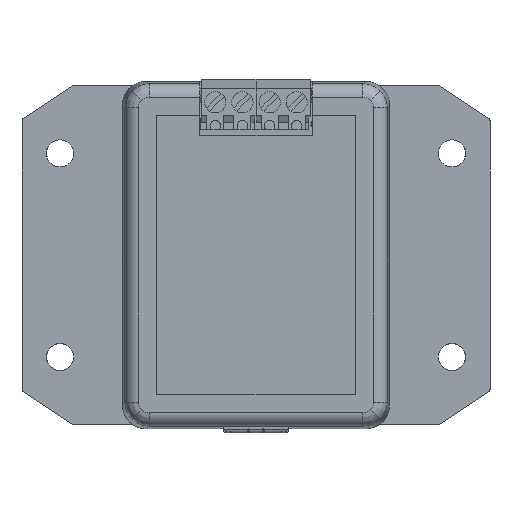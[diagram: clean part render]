
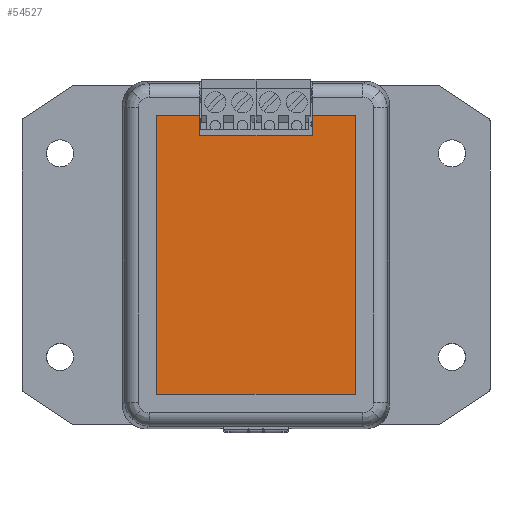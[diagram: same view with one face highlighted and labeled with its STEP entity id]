
A CAD part, top view. The second image highlights one B-rep face of the part: STEP entity #54527.
In plain terms, the highlighted planar face has unit normal (0, 0, 1).
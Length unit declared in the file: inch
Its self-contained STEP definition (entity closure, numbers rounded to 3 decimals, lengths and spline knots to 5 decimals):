
#76 = CARTESIAN_POINT ( 'NONE',  ( 1.39925, 2.30709, 0.96457 ) ) ;
#899 = VERTEX_POINT ( 'NONE', #37938 ) ;
#2148 = VECTOR ( 'NONE', #65959, 39.37008 ) ;
#3883 = LINE ( 'NONE', #32695, #2148 ) ;
#6229 = VECTOR ( 'NONE', #67058, 39.37008 ) ;
#9610 = DIRECTION ( 'NONE',  ( -1., 0., 0. ) ) ;
#11442 = VERTEX_POINT ( 'NONE', #60532 ) ;
#12210 = EDGE_CURVE ( 'NONE', #67564, #11442, #3883, .T. ) ;
#15678 = CARTESIAN_POINT ( 'NONE',  ( 0.25197, 0.25197, 0.96457 ) ) ;
#17650 = LINE ( 'NONE', #61222, #6229 ) ;
#18807 = VERTEX_POINT ( 'NONE', #20072 ) ;
#19015 = LINE ( 'NONE', #53334, #46927 ) ;
#19355 = EDGE_CURVE ( 'NONE', #899, #18807, #42276, .T. ) ;
#19396 = ORIENTED_EDGE ( 'NONE', *, *, #12210, .F. ) ;
#19545 = FACE_OUTER_BOUND ( 'NONE', #54550, .T. ) ;
#19624 = ORIENTED_EDGE ( 'NONE', *, *, #41957, .T. ) ;
#20072 = CARTESIAN_POINT ( 'NONE',  ( 1.39925, 2.15779, 0.96457 ) ) ;
#24585 = CARTESIAN_POINT ( 'NONE',  ( 0.25197, 0.25197, 0.96457 ) ) ;
#24644 = DIRECTION ( 'NONE',  ( 0., 0., 1. ) ) ;
#25576 = VECTOR ( 'NONE', #9610, 39.37008 ) ;
#27043 = CARTESIAN_POINT ( 'NONE',  ( 0.25197, 2.30709, 0.96457 ) ) ;
#27065 = VECTOR ( 'NONE', #38712, 39.37008 ) ;
#30806 = CARTESIAN_POINT ( 'NONE',  ( 0.56925, 2.30709, 0.96457 ) ) ;
#31661 = CARTESIAN_POINT ( 'NONE',  ( 1.71654, 2.30709, 0.96457 ) ) ;
#32292 = LINE ( 'NONE', #24585, #45347 ) ;
#32695 = CARTESIAN_POINT ( 'NONE',  ( 0.56925, 2.30709, 0.96457 ) ) ;
#34267 = VERTEX_POINT ( 'NONE', #42681 ) ;
#36786 = DIRECTION ( 'NONE',  ( -1., 0., 0. ) ) ;
#37938 = CARTESIAN_POINT ( 'NONE',  ( 1.39925, 2.30709, 0.96457 ) ) ;
#38712 = DIRECTION ( 'NONE',  ( -1., 0., 0. ) ) ;
#39689 = VERTEX_POINT ( 'NONE', #31661 ) ;
#39790 = LINE ( 'NONE', #27043, #52872 ) ;
#40416 = LINE ( 'NONE', #70755, #25576 ) ;
#40954 = VERTEX_POINT ( 'NONE', #15678 ) ;
#41957 = EDGE_CURVE ( 'NONE', #39689, #899, #40416, .T. ) ;
#42276 = LINE ( 'NONE', #76, #58837 ) ;
#42681 = CARTESIAN_POINT ( 'NONE',  ( 0.25197, 2.30709, 0.96457 ) ) ;
#43589 = LINE ( 'NONE', #60828, #27065 ) ;
#45347 = VECTOR ( 'NONE', #69105, 39.37008 ) ;
#46927 = VECTOR ( 'NONE', #36786, 39.37008 ) ;
#48607 = EDGE_CURVE ( 'NONE', #71699, #39689, #17650, .T. ) ;
#50151 = EDGE_CURVE ( 'NONE', #40954, #71699, #32292, .T. ) ;
#50493 = ORIENTED_EDGE ( 'NONE', *, *, #50151, .T. ) ;
#52872 = VECTOR ( 'NONE', #55295, 39.37008 ) ;
#53259 = EDGE_CURVE ( 'NONE', #34267, #40954, #39790, .T. ) ;
#53334 = CARTESIAN_POINT ( 'NONE',  ( 0.25197, 2.15779, 0.96457 ) ) ;
#54527 = ADVANCED_FACE ( 'NONE', ( #19545 ), #68933, .T. ) ;
#54550 = EDGE_LOOP ( 'NONE', ( #19396, #62347, #67407, #50493, #71054, #19624, #67329, #63438 ) ) ;
#55033 = EDGE_CURVE ( 'NONE', #18807, #11442, #19015, .T. ) ;
#55048 = DIRECTION ( 'NONE',  ( 0., -1., 0. ) ) ;
#55295 = DIRECTION ( 'NONE',  ( 0., -1., 0. ) ) ;
#56918 = CARTESIAN_POINT ( 'NONE',  ( 1.71654, 0.25197, 0.96457 ) ) ;
#58018 = CARTESIAN_POINT ( 'NONE',  ( 0.25197, 2.30709, 0.96457 ) ) ;
#58837 = VECTOR ( 'NONE', #55048, 39.37008 ) ;
#60532 = CARTESIAN_POINT ( 'NONE',  ( 0.56925, 2.15779, 0.96457 ) ) ;
#60828 = CARTESIAN_POINT ( 'NONE',  ( 1.71654, 2.30709, 0.96457 ) ) ;
#61222 = CARTESIAN_POINT ( 'NONE',  ( 1.71654, 0.25197, 0.96457 ) ) ;
#62347 = ORIENTED_EDGE ( 'NONE', *, *, #70223, .T. ) ;
#63438 = ORIENTED_EDGE ( 'NONE', *, *, #55033, .T. ) ;
#63562 = DIRECTION ( 'NONE',  ( 1., 0., 0. ) ) ;
#65959 = DIRECTION ( 'NONE',  ( 0., -1., 0. ) ) ;
#67058 = DIRECTION ( 'NONE',  ( 0., 1., 0. ) ) ;
#67329 = ORIENTED_EDGE ( 'NONE', *, *, #19355, .T. ) ;
#67407 = ORIENTED_EDGE ( 'NONE', *, *, #53259, .T. ) ;
#67564 = VERTEX_POINT ( 'NONE', #30806 ) ;
#67999 = AXIS2_PLACEMENT_3D ( 'NONE', #58018, #24644, #63562 ) ;
#68933 = PLANE ( 'NONE',  #67999 ) ;
#69105 = DIRECTION ( 'NONE',  ( 1., 0., 0. ) ) ;
#70223 = EDGE_CURVE ( 'NONE', #67564, #34267, #43589, .T. ) ;
#70755 = CARTESIAN_POINT ( 'NONE',  ( 1.71654, 2.30709, 0.96457 ) ) ;
#71054 = ORIENTED_EDGE ( 'NONE', *, *, #48607, .T. ) ;
#71699 = VERTEX_POINT ( 'NONE', #56918 ) ;
